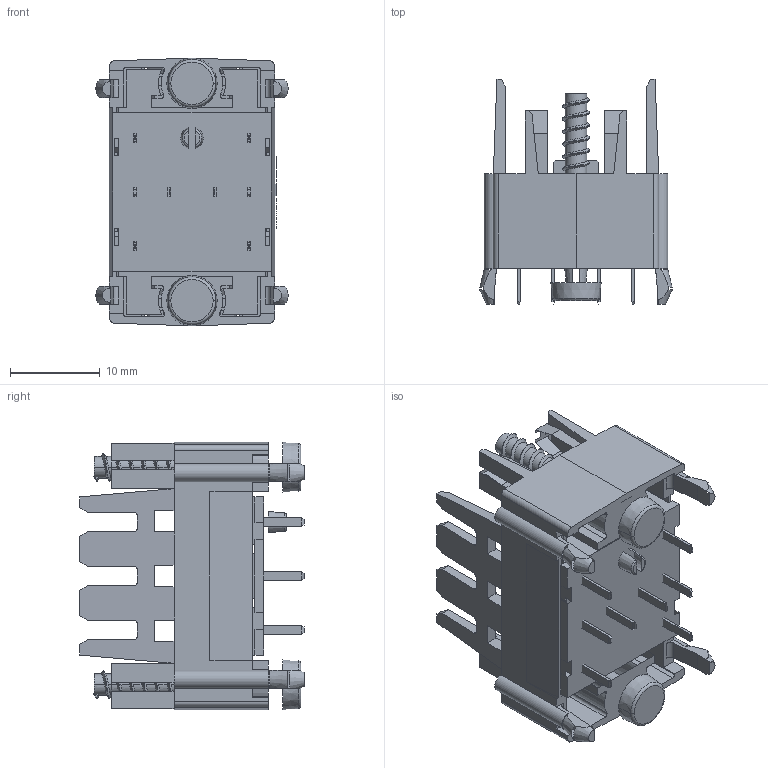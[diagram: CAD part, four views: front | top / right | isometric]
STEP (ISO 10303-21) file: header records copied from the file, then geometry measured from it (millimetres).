
FILE_DESCRIPTION((''),'2;1');
FILE_NAME('ZBZ010','2016-01-28T',('EBBX743'),('Schneider-Electric'),'PRO/ENGINEER BY PARAMETRIC TECHNOLOGY CORPORATION, 2014310','PRO/ENGINEER BY PARAMETRIC TECHNOLOGY CORPORATION, 2014310','');
FILE_SCHEMA(('CONFIG_CONTROL_DESIGN'));
Length unit declared in the file: millimetre
Products named in the file (1): ZBZ010
Bounding box: 21.39 x 25 x 29.8 mm (x, y, z)
Surface area: 5074.2 mm2 (no closed solid volume)
Topology: 0 solids, 34 shells, 359 faces, 1637 edges, 1230 vertices
Faces by surface type: plane 271, cylinder 54, cone 14, bspline 14, torus 6
Entity records: 21876 total; most frequent: CARTESIAN_POINT 9260, DIRECTION 2389, ORIENTED_EDGE 2384, EDGE_CURVE 1637, VECTOR 1303, LINE 1303, VERTEX_POINT 1230, AXIS2_PLACEMENT_3D 543
